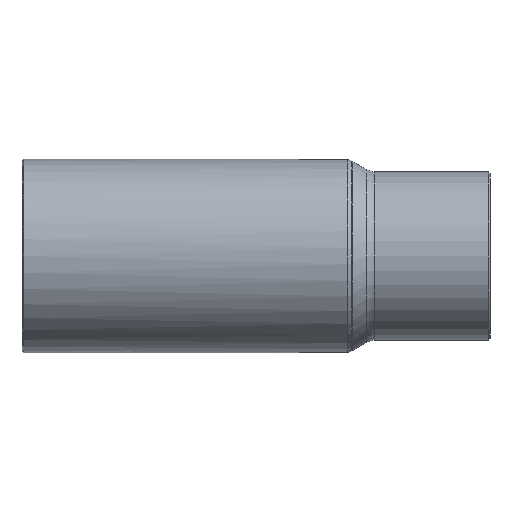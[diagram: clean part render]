
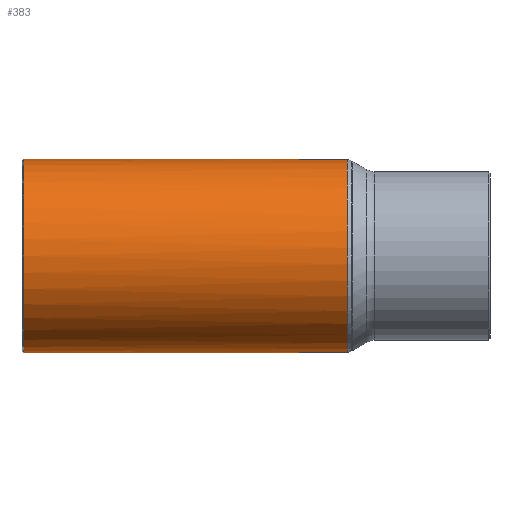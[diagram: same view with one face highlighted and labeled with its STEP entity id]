
A CAD part, front view. The second image highlights one B-rep face of the part: STEP entity #383.
In plain terms, the highlighted cylindrical face has radius 12.7 mm (diameter 25.4 mm), a full revolution.
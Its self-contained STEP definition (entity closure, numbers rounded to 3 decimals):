
#121=CARTESIAN_POINT('',(0.,0.0,-12.7));
#122=VERTEX_POINT('',#121);
#123=CARTESIAN_POINT('',(0.,0.0,12.7));
#124=VERTEX_POINT('',#123);
#309=CARTESIAN_POINT('',(-29.5,12.7,0.));
#310=VERTEX_POINT('',#309);
#311=CARTESIAN_POINT('',(-29.5,0.0,0.0));
#312=DIRECTION('',(-1.0,0.0,0.0));
#313=DIRECTION('',(0.0,-1.0,0.0));
#314=AXIS2_PLACEMENT_3D('',#311,#312,#313);
#315=CIRCLE('',#314,12.7);
#316=EDGE_CURVE('',#310,#310,#315,.T.);
#341=CARTESIAN_POINT('',(1.05,0.0,0.0));
#342=DIRECTION('',(1.0,0.0,0.0));
#343=DIRECTION('',(0.0,1.0,0.0));
#344=AXIS2_PLACEMENT_3D('',#341,#342,#343);
#345=CYLINDRICAL_SURFACE('',#344,12.7);
#346=CARTESIAN_POINT('',(13.017,10.204,7.561));
#347=VERTEX_POINT('',#346);
#348=CARTESIAN_POINT('',(13.017,10.204,-7.561));
#349=VERTEX_POINT('',#348);
#350=CARTESIAN_POINT('',(13.017,0.0,0.0));
#351=DIRECTION('',(1.0,0.0,0.0));
#352=DIRECTION('',(0.0,-1.0,0.0));
#353=AXIS2_PLACEMENT_3D('',#350,#351,#352);
#354=CIRCLE('',#353,12.7);
#355=EDGE_CURVE('',#347,#349,#354,.T.);
#356=ORIENTED_EDGE('',*,*,#355,.F.);
#357=CARTESIAN_POINT('',(0.0,0.0,0.0));
#358=DIRECTION('',(-0.617,0.787,0.));
#359=DIRECTION('',(0.787,0.617,0.0));
#360=AXIS2_PLACEMENT_3D('',#357,#358,#359);
#361=ELLIPSE('',#360,20.585,12.7);
#362=EDGE_CURVE('',#124,#347,#361,.T.);
#363=ORIENTED_EDGE('',*,*,#362,.F.);
#364=CARTESIAN_POINT('',(0.0,0.0,0.0));
#365=DIRECTION('',(0.617,0.787,0.));
#366=DIRECTION('',(-0.787,0.617,0.0));
#367=AXIS2_PLACEMENT_3D('',#364,#365,#366);
#368=ELLIPSE('',#367,20.585,12.7);
#369=EDGE_CURVE('',#122,#124,#368,.T.);
#370=ORIENTED_EDGE('',*,*,#369,.F.);
#371=CARTESIAN_POINT('',(0.0,0.0,0.0));
#372=DIRECTION('',(-0.617,0.787,0.));
#373=DIRECTION('',(0.787,0.617,0.0));
#374=AXIS2_PLACEMENT_3D('',#371,#372,#373);
#375=ELLIPSE('',#374,20.585,12.7);
#376=EDGE_CURVE('',#349,#122,#375,.T.);
#377=ORIENTED_EDGE('',*,*,#376,.F.);
#378=EDGE_LOOP('',(#356,#363,#370,#377));
#379=FACE_OUTER_BOUND('',#378,.T.);
#380=ORIENTED_EDGE('',*,*,#316,.F.);
#381=EDGE_LOOP('',(#380));
#382=FACE_BOUND('',#381,.T.);
#383=ADVANCED_FACE('',(#379,#382),#345,.T.);
